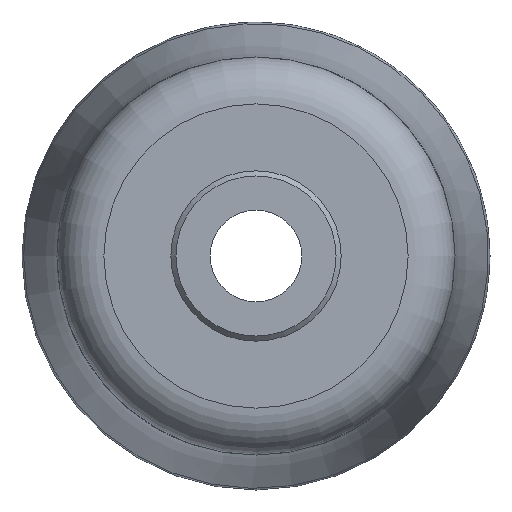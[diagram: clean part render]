
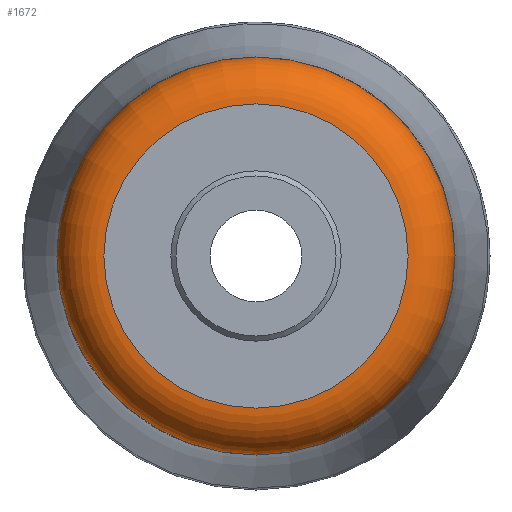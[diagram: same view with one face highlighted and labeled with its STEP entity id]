
A CAD part, left-side view. The second image highlights one B-rep face of the part: STEP entity #1672.
In plain terms, the highlighted toroidal (fillet/blend) face has major radius 27.625 mm and minor radius 8.5 mm.
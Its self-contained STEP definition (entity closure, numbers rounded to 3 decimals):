
#16=TOROIDAL_SURFACE('',#1828,27.625,8.5);
#353=FACE_BOUND('',#498,.T.);
#388=FACE_OUTER_BOUND('',#497,.T.);
#497=EDGE_LOOP('',(#1219));
#498=EDGE_LOOP('',(#1220));
#613=CIRCLE('',#1807,36.125);
#626=CIRCLE('',#1829,27.625);
#725=VERTEX_POINT('',#2859);
#735=VERTEX_POINT('',#2919);
#896=EDGE_CURVE('',#725,#725,#613,.T.);
#912=EDGE_CURVE('',#735,#735,#626,.T.);
#1219=ORIENTED_EDGE('',*,*,#912,.T.);
#1220=ORIENTED_EDGE('',*,*,#896,.T.);
#1672=ADVANCED_FACE('',(#388,#353),#16,.T.);
#1807=AXIS2_PLACEMENT_3D('',#2860,#2076,#2077);
#1828=AXIS2_PLACEMENT_3D('',#2918,#2119,#2120);
#1829=AXIS2_PLACEMENT_3D('',#2920,#2121,#2122);
#2076=DIRECTION('center_axis',(-1.,0.,0.));
#2077=DIRECTION('ref_axis',(0.,-1.,0.));
#2119=DIRECTION('center_axis',(1.,0.,0.));
#2120=DIRECTION('ref_axis',(0.,0.,-1.));
#2121=DIRECTION('center_axis',(1.,0.,0.));
#2122=DIRECTION('ref_axis',(0.,-1.,0.));
#2859=CARTESIAN_POINT('',(25.5,36.125,0.));
#2860=CARTESIAN_POINT('Origin',(25.5,0.,0.));
#2918=CARTESIAN_POINT('Origin',(25.5,0.,0.));
#2919=CARTESIAN_POINT('',(17.,27.625,0.));
#2920=CARTESIAN_POINT('Origin',(17.,0.,0.));
